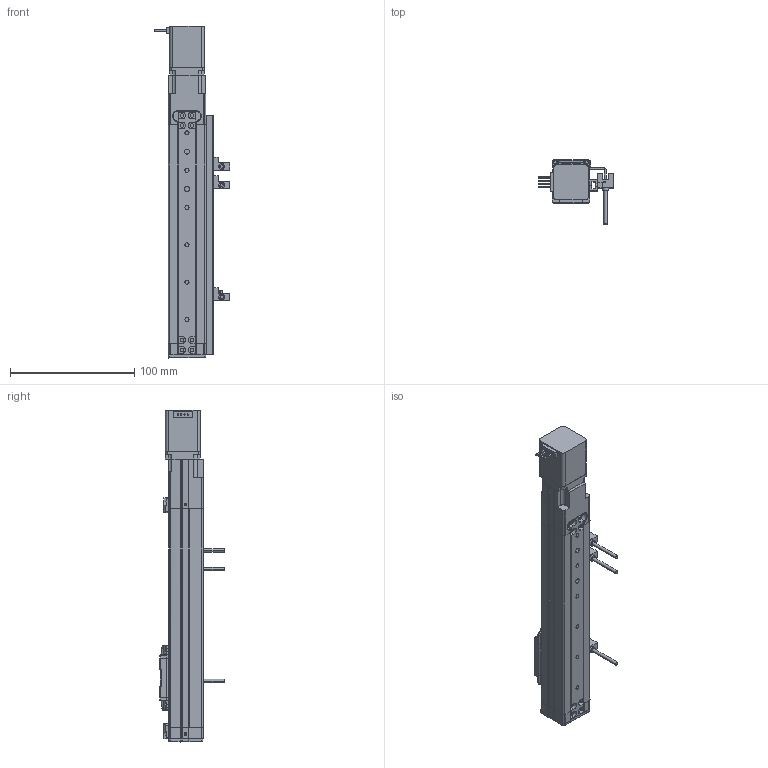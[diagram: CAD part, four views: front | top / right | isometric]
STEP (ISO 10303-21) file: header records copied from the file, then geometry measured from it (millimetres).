
FILE_DESCRIPTION (( 'STEP AP203' ), '1' );
FILE_NAME ('PES030SON-0601-ST100-28NN00-N-I3R.STEP', '2015-10-06T07:32:23', ( '' ), ( '' ), 'SwSTEP 2.0', 'SolidWorks 2012', '' );
FILE_SCHEMA (( 'CONFIG_CONTROL_DESIGN' ));
Products named in the file (14): PES030SON-0601-ST100-28NN00-N-I3R; PES030-END COVER(Tail); SDWA-16C; NEMA 11; PES030-Carrier UPPER Cover; PES030-Free Bearing; PES030-END COVER(Motor); PES030-Sensor Dog; PM-L24; PES030-Sus Band Holder; PES030-Fix Bearing S; PES030-Carrier END COVER; PES030-Carrier; PES030-Lm Guide S 100ST
Assembly tree (17 placements, depth 2):
  PES030SON-0601-ST100-28NN00-N-I3R
    PES030-Fix Bearing S
    PES030-Lm Guide S 100ST
    PES030-Carrier
    PES030-Carrier END COVER  x2
    PES030-END COVER(Motor)
    PES030-Sensor Dog
    PES030-Sus Band Holder  x2
    PM-L24  x3
    SDWA-16C
    PES030-Free Bearing
    PES030-Carrier UPPER Cover
    NEMA 11
    PES030-END COVER(Tail)
Bounding box: 61.1 x 51.8 x 267.01 mm (x, y, z)
Volume: 120932.4 mm3; surface area: 93660.1 mm2
Topology: 20 solids, 52 shells, 2031 faces, 5374 edges, 3423 vertices
Faces by surface type: plane 832, cylinder 722, bspline 242, cone 233, torus 2
Entity records: 65677 total; most frequent: CARTESIAN_POINT 18797, ORIENTED_EDGE 9658, DIRECTION 9416, EDGE_CURVE 4829, AXIS2_PLACEMENT_3D 3482, VERTEX_POINT 3103, LINE 2452, VECTOR 2452
